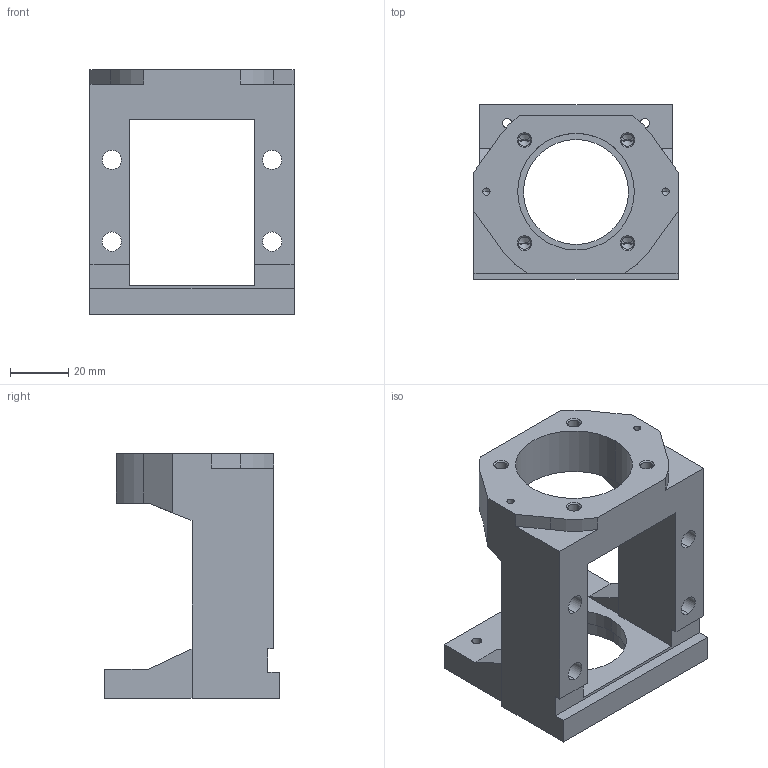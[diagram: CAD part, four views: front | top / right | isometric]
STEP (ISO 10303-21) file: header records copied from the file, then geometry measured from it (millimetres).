
FILE_DESCRIPTION (( 'STEP AP203' ), '1' );
FILE_NAME ('自化件傳動座外MBA15C本體.STEP', '2018-12-27T08:25:20', ( '' ), ( '' ), 'SwSTEP 2.0', 'SolidWorks 2018', '' );
FILE_SCHEMA (( 'CONFIG_CONTROL_DESIGN' ));
Length unit declared in the file: millimetre
Products named in the file (1): 自化件傳動座外MBA15C本體
Bounding box: 70 x 60 x 84 mm (x, y, z)
Volume: 105675.2 mm3; surface area: 31874.1 mm2
Topology: 1 solids, 1 shells, 119 faces, 310 edges, 188 vertices
Faces by surface type: cylinder 46, plane 41, cone 32
Entity records: 3637 total; most frequent: DIRECTION 642, CARTESIAN_POINT 602, ORIENTED_EDGE 588, EDGE_CURVE 294, AXIS2_PLACEMENT_3D 228, VERTEX_POINT 188, LINE 186, VECTOR 186
